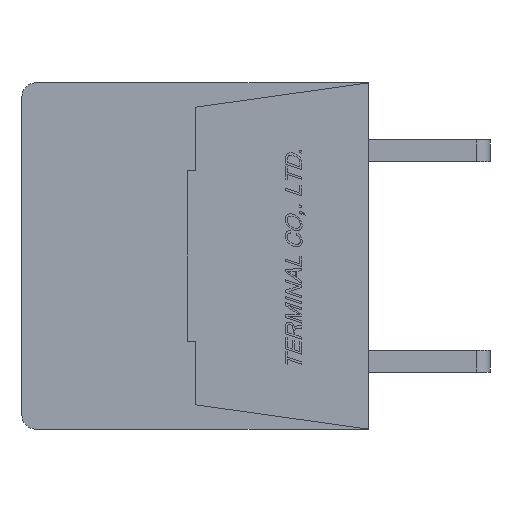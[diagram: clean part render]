
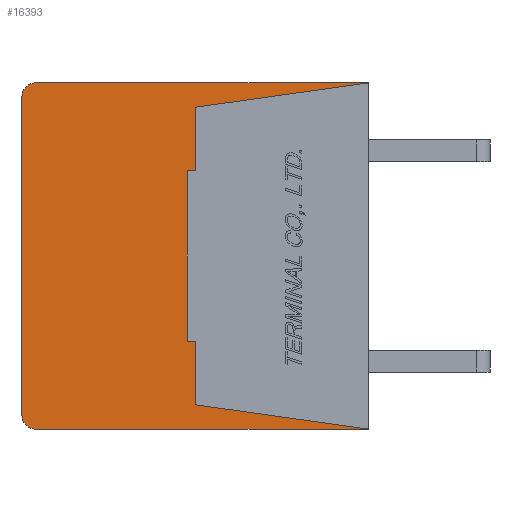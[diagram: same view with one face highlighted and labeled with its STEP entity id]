
A CAD part, left-side view. The second image highlights one B-rep face of the part: STEP entity #16393.
In plain terms, the highlighted planar face has unit normal (-1, 0, 0) as drawn and (1, 0, 0) by its records, which use the part's own axes.
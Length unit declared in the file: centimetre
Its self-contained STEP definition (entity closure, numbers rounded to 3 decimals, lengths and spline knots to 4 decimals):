
#844=CIRCLE('',#27692,0.05);
#845=CIRCLE('',#27693,0.05);
#1422=VERTEX_POINT('',#22410);
#1427=VERTEX_POINT('',#22421);
#1429=VERTEX_POINT('',#22427);
#1431=VERTEX_POINT('',#22433);
#1433=VERTEX_POINT('',#22439);
#1435=VERTEX_POINT('',#22445);
#1437=VERTEX_POINT('',#22451);
#1439=VERTEX_POINT('',#22457);
#1766=VERTEX_POINT('',#23911);
#1767=VERTEX_POINT('',#23913);
#1768=VERTEX_POINT('',#23915);
#1769=VERTEX_POINT('',#23917);
#3151=VECTOR('',#18478,1.);
#3154=VECTOR('',#18482,1.);
#3157=VECTOR('',#18486,1.);
#3160=VECTOR('',#18490,1.);
#3163=VECTOR('',#18494,1.);
#3166=VECTOR('',#18498,1.);
#3169=VECTOR('',#18502,1.);
#3555=VECTOR('',#19001,1.);
#3556=VECTOR('',#19004,1.);
#3557=VECTOR('',#19007,1.);
#5075=LINE('',#22426,#3151);
#5078=LINE('',#22432,#3154);
#5081=LINE('',#22438,#3157);
#5084=LINE('',#22444,#3160);
#5087=LINE('',#22450,#3163);
#5090=LINE('',#22456,#3166);
#5093=LINE('',#22461,#3169);
#5479=LINE('',#23910,#3555);
#5480=LINE('',#23914,#3556);
#5481=LINE('',#23918,#3557);
#7173=EDGE_CURVE('',#1429,#1427,#5075,.T.);
#7176=EDGE_CURVE('',#1431,#1429,#5078,.T.);
#7179=EDGE_CURVE('',#1433,#1431,#5081,.T.);
#7182=EDGE_CURVE('',#1435,#1433,#5084,.T.);
#7185=EDGE_CURVE('',#1437,#1435,#5087,.T.);
#7188=EDGE_CURVE('',#1439,#1437,#5090,.T.);
#7191=EDGE_CURVE('',#1422,#1439,#5093,.T.);
#7681=EDGE_CURVE('',#1427,#1766,#5479,.T.);
#7682=EDGE_CURVE('',#1767,#1766,#844,.T.);
#7683=EDGE_CURVE('',#1767,#1768,#5480,.T.);
#7684=EDGE_CURVE('',#1769,#1768,#845,.T.);
#7685=EDGE_CURVE('',#1769,#1422,#5481,.T.);
#11218=ORIENTED_EDGE('',*,*,#7173,.T.);
#11219=ORIENTED_EDGE('',*,*,#7681,.T.);
#11220=ORIENTED_EDGE('',*,*,#7682,.F.);
#11221=ORIENTED_EDGE('',*,*,#7683,.T.);
#11222=ORIENTED_EDGE('',*,*,#7684,.F.);
#11223=ORIENTED_EDGE('',*,*,#7685,.T.);
#11224=ORIENTED_EDGE('',*,*,#7191,.T.);
#11225=ORIENTED_EDGE('',*,*,#7188,.T.);
#11226=ORIENTED_EDGE('',*,*,#7185,.T.);
#11227=ORIENTED_EDGE('',*,*,#7182,.T.);
#11228=ORIENTED_EDGE('',*,*,#7179,.T.);
#11229=ORIENTED_EDGE('',*,*,#7176,.T.);
#14343=EDGE_LOOP('',(#11218,#11219,#11220,#11221,#11222,#11223,#11224,#11225,
#11226,#11227,#11228,#11229));
#15395=FACE_BOUND('',#14343,.T.);
#16393=ADVANCED_FACE('',(#15395),#17204,.F.);
#17204=PLANE('',#27691);
#18478=DIRECTION('',(0.,-0.99,-0.139));
#18482=DIRECTION('',(0.,0.,-1.));
#18486=DIRECTION('',(0.,-1.,0.));
#18490=DIRECTION('',(0.,0.,-1.));
#18494=DIRECTION('',(0.,1.,0.));
#18498=DIRECTION('',(0.,0.,-1.));
#18502=DIRECTION('',(0.,0.99,-0.139));
#19000=DIRECTION('',(-1.,0.,0.));
#19001=DIRECTION('',(0.,1.,0.));
#19002=DIRECTION('',(-1.,0.,0.));
#19003=DIRECTION('',(0.,0.,0.05));
#19004=DIRECTION('',(0.,0.,1.));
#19005=DIRECTION('',(-1.,0.,0.));
#19006=DIRECTION('',(0.,0.,0.05));
#19007=DIRECTION('',(0.,-1.,0.));
#22410=CARTESIAN_POINT('',(0.,0.,0.64));
#22421=CARTESIAN_POINT('',(0.,0.,-0.64));
#22426=CARTESIAN_POINT('',(0.,0.64,-0.55));
#22427=CARTESIAN_POINT('',(0.,0.64,-0.55));
#22432=CARTESIAN_POINT('',(0.,0.64,-0.315));
#22433=CARTESIAN_POINT('',(0.,0.64,-0.315));
#22438=CARTESIAN_POINT('',(0.,0.67,-0.315));
#22439=CARTESIAN_POINT('',(0.,0.67,-0.315));
#22444=CARTESIAN_POINT('',(0.,0.67,0.315));
#22445=CARTESIAN_POINT('',(0.,0.67,0.315));
#22450=CARTESIAN_POINT('',(0.,0.64,0.315));
#22451=CARTESIAN_POINT('',(0.,0.64,0.315));
#22456=CARTESIAN_POINT('',(0.,0.64,0.55));
#22457=CARTESIAN_POINT('',(0.,0.64,0.55));
#22461=CARTESIAN_POINT('',(0.,0.,0.64));
#23909=CARTESIAN_POINT('',(0.,0.6345,0.));
#23910=CARTESIAN_POINT('',(0.,0.,
-0.64));
#23911=CARTESIAN_POINT('',(0.,1.23,-0.64));
#23912=CARTESIAN_POINT('',(0.,1.23,-0.59));
#23913=CARTESIAN_POINT('',(0.,1.28,-0.59));
#23914=CARTESIAN_POINT('',(0.,1.28,-0.59));
#23915=CARTESIAN_POINT('',(0.,1.28,0.59));
#23916=CARTESIAN_POINT('',(0.,1.23,0.59));
#23917=CARTESIAN_POINT('',(0.,1.23,0.64));
#23918=CARTESIAN_POINT('',(0.,1.23,0.64));
#27691=AXIS2_PLACEMENT_3D('',#23909,#19000,$);
#27692=AXIS2_PLACEMENT_3D('',#23912,#19002,#19003);
#27693=AXIS2_PLACEMENT_3D('',#23916,#19005,#19006);
